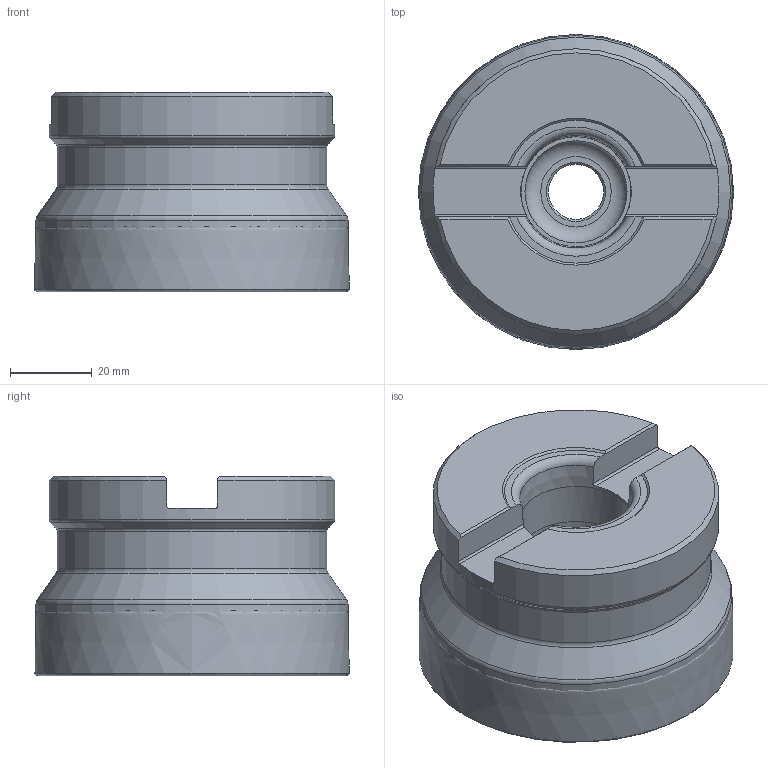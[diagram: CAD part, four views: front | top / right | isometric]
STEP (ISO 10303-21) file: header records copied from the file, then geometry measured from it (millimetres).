
FILE_DESCRIPTION(/* description */ (''),/* implementation_level */ '2;1');
FILE_NAME(/* name */ '637720837094804901.stp',/* time_stamp */ '2021-11-09T19:42:04+08:00',/* author */ (''),/* organization */ (''),/* preprocessor_version */ 'ST-DEVELOPER v16.7',/* originating_system */ 'SIEMENS PLM Software NX 12.0',/* authorisation */ '');
FILE_SCHEMA (('AUTOMOTIVE_DESIGN { 1 0 10303 214 3 1 1 1 }'));
Length unit declared in the file: millimetre
Products named in the file (2): 637720837051753854_LNKT160708PNR-GL; 637720837029385373_EMP09-080-A27-LN16-06C_S
Assembly tree (6 placements, depth 2):
  637720837029385373_EMP09-080-A27-LN16-06C_S
    637720837051753854_LNKT160708PNR-GL  x6
Bounding box: 77.17 x 77.17 x 48.82 mm (x, y, z)
Volume: 193620.9 mm3; surface area: 32679.3 mm2
Topology: 2 solids, 2 shells, 62 faces, 149 edges, 93 vertices
Faces by surface type: plane 20, torus 13, cone 12, cylinder 11, revolution 6
Full cylindrical faces by diameter (mm): 13.5 x1, 20 x1, 27 x1, 29 x1, 66 x1, 70 x1, 76.443 x1
Entity records: 1935 total; most frequent: CARTESIAN_POINT 597, DIRECTION 258, ORIENTED_EDGE 208, AXIS2_PLACEMENT_3D 114, EDGE_CURVE 104, EDGE_LOOP 98, VERTEX_POINT 80, FACE_BOUND 74
